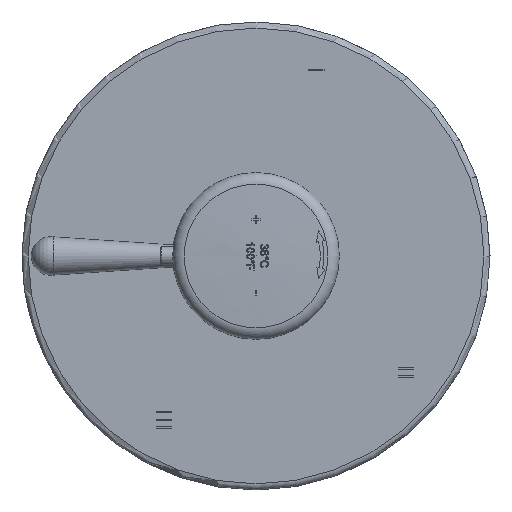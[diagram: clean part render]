
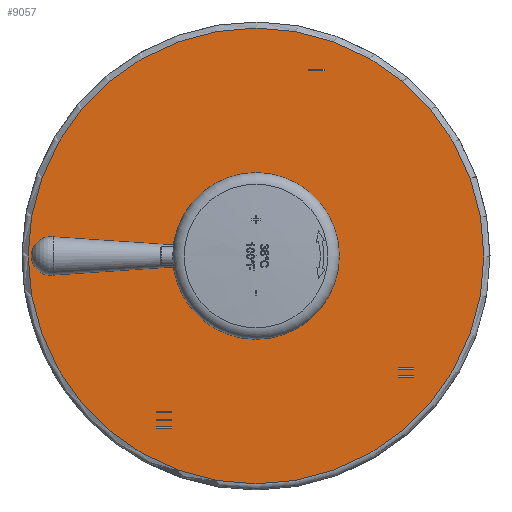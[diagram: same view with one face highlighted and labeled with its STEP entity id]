
A CAD part, front view. The second image highlights one B-rep face of the part: STEP entity #9057.
In plain terms, the highlighted planar face has unit normal (0, -1, 0) as drawn and (0, 0, 1) by its records, which use the part's own axes.
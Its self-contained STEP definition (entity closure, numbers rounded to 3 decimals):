
#400=LINE('',#12822,#940);
#403=LINE('',#12827,#943);
#405=LINE('',#12831,#945);
#407=LINE('',#12834,#947);
#408=LINE('',#12838,#948);
#412=LINE('',#12846,#952);
#415=LINE('',#12852,#955);
#418=LINE('',#12857,#958);
#424=LINE('',#12872,#964);
#427=LINE('',#12877,#967);
#429=LINE('',#12881,#969);
#431=LINE('',#12884,#971);
#432=LINE('',#12888,#972);
#436=LINE('',#12896,#976);
#439=LINE('',#12902,#979);
#442=LINE('',#12907,#982);
#448=LINE('',#12922,#988);
#451=LINE('',#12927,#991);
#453=LINE('',#12931,#993);
#455=LINE('',#12934,#995);
#456=LINE('',#12938,#996);
#460=LINE('',#12946,#1000);
#463=LINE('',#12952,#1003);
#466=LINE('',#12957,#1006);
#940=VECTOR('',#10505,0.5);
#943=VECTOR('',#10510,5.);
#945=VECTOR('',#10514,5.);
#947=VECTOR('',#10518,0.5);
#948=VECTOR('',#10521,0.5);
#952=VECTOR('',#10527,5.);
#955=VECTOR('',#10532,5.);
#958=VECTOR('',#10537,0.5);
#964=VECTOR('',#10549,0.5);
#967=VECTOR('',#10554,5.);
#969=VECTOR('',#10558,5.);
#971=VECTOR('',#10562,0.5);
#972=VECTOR('',#10565,5.);
#976=VECTOR('',#10571,0.5);
#979=VECTOR('',#10576,0.5);
#982=VECTOR('',#10581,5.);
#988=VECTOR('',#10593,0.5);
#991=VECTOR('',#10598,5.);
#993=VECTOR('',#10602,5.);
#995=VECTOR('',#10606,0.5);
#996=VECTOR('',#10609,0.5);
#1000=VECTOR('',#10615,5.);
#1003=VECTOR('',#10620,5.);
#1006=VECTOR('',#10625,0.5);
#1563=PLANE('',#9673);
#1810=CIRCLE('',#9672,26.85);
#1811=CIRCLE('',#9674,74.5);
#2171=FACE_BOUND('',#2964,.T.);
#2172=FACE_BOUND('',#2965,.T.);
#2173=FACE_BOUND('',#2966,.T.);
#2174=FACE_BOUND('',#2967,.T.);
#2175=FACE_BOUND('',#2968,.T.);
#2176=FACE_BOUND('',#2969,.T.);
#2177=FACE_BOUND('',#2970,.T.);
#2361=FACE_OUTER_BOUND('',#2963,.T.);
#2963=EDGE_LOOP('',(#6394));
#2964=EDGE_LOOP('',(#6395,#6396,#6397,#6398));
#2965=EDGE_LOOP('',(#6399,#6400,#6401,#6402));
#2966=EDGE_LOOP('',(#6403,#6404,#6405,#6406));
#2967=EDGE_LOOP('',(#6407,#6408,#6409,#6410));
#2968=EDGE_LOOP('',(#6411,#6412,#6413,#6414));
#2969=EDGE_LOOP('',(#6415,#6416,#6417,#6418));
#2970=EDGE_LOOP('',(#6419));
#3962=VERTEX_POINT('',#12820);
#3963=VERTEX_POINT('',#12821);
#3964=VERTEX_POINT('',#12826);
#3965=VERTEX_POINT('',#12830);
#3966=VERTEX_POINT('',#12836);
#3967=VERTEX_POINT('',#12837);
#3970=VERTEX_POINT('',#12845);
#3972=VERTEX_POINT('',#12851);
#3978=VERTEX_POINT('',#12870);
#3979=VERTEX_POINT('',#12871);
#3980=VERTEX_POINT('',#12876);
#3981=VERTEX_POINT('',#12880);
#3982=VERTEX_POINT('',#12886);
#3983=VERTEX_POINT('',#12887);
#3986=VERTEX_POINT('',#12895);
#3988=VERTEX_POINT('',#12901);
#3994=VERTEX_POINT('',#12920);
#3995=VERTEX_POINT('',#12921);
#3996=VERTEX_POINT('',#12926);
#3997=VERTEX_POINT('',#12930);
#3998=VERTEX_POINT('',#12936);
#3999=VERTEX_POINT('',#12937);
#4002=VERTEX_POINT('',#12945);
#4004=VERTEX_POINT('',#12951);
#4024=VERTEX_POINT('',#13048);
#4025=VERTEX_POINT('',#13051);
#4883=EDGE_CURVE('',#3962,#3963,#400,.T.);
#4886=EDGE_CURVE('',#3963,#3964,#403,.T.);
#4888=EDGE_CURVE('',#3965,#3962,#405,.T.);
#4890=EDGE_CURVE('',#3964,#3965,#407,.T.);
#4891=EDGE_CURVE('',#3966,#3967,#408,.T.);
#4895=EDGE_CURVE('',#3967,#3970,#412,.T.);
#4898=EDGE_CURVE('',#3972,#3966,#415,.T.);
#4901=EDGE_CURVE('',#3970,#3972,#418,.T.);
#4907=EDGE_CURVE('',#3978,#3979,#424,.T.);
#4910=EDGE_CURVE('',#3979,#3980,#427,.T.);
#4912=EDGE_CURVE('',#3981,#3978,#429,.T.);
#4914=EDGE_CURVE('',#3980,#3981,#431,.T.);
#4915=EDGE_CURVE('',#3982,#3983,#432,.T.);
#4919=EDGE_CURVE('',#3983,#3986,#436,.T.);
#4922=EDGE_CURVE('',#3988,#3982,#439,.T.);
#4925=EDGE_CURVE('',#3986,#3988,#442,.T.);
#4931=EDGE_CURVE('',#3994,#3995,#448,.T.);
#4934=EDGE_CURVE('',#3995,#3996,#451,.T.);
#4936=EDGE_CURVE('',#3997,#3994,#453,.T.);
#4938=EDGE_CURVE('',#3996,#3997,#455,.T.);
#4939=EDGE_CURVE('',#3998,#3999,#456,.T.);
#4943=EDGE_CURVE('',#3999,#4002,#460,.T.);
#4946=EDGE_CURVE('',#4004,#3998,#463,.T.);
#4949=EDGE_CURVE('',#4002,#4004,#466,.T.);
#4973=EDGE_CURVE('',#4024,#4024,#1810,.T.);
#4974=EDGE_CURVE('',#4025,#4025,#1811,.T.);
#6394=ORIENTED_EDGE('',*,*,#4974,.F.);
#6395=ORIENTED_EDGE('',*,*,#4883,.T.);
#6396=ORIENTED_EDGE('',*,*,#4886,.T.);
#6397=ORIENTED_EDGE('',*,*,#4890,.T.);
#6398=ORIENTED_EDGE('',*,*,#4888,.T.);
#6399=ORIENTED_EDGE('',*,*,#4891,.T.);
#6400=ORIENTED_EDGE('',*,*,#4895,.T.);
#6401=ORIENTED_EDGE('',*,*,#4901,.T.);
#6402=ORIENTED_EDGE('',*,*,#4898,.T.);
#6403=ORIENTED_EDGE('',*,*,#4907,.T.);
#6404=ORIENTED_EDGE('',*,*,#4910,.T.);
#6405=ORIENTED_EDGE('',*,*,#4914,.T.);
#6406=ORIENTED_EDGE('',*,*,#4912,.T.);
#6407=ORIENTED_EDGE('',*,*,#4915,.T.);
#6408=ORIENTED_EDGE('',*,*,#4919,.T.);
#6409=ORIENTED_EDGE('',*,*,#4925,.T.);
#6410=ORIENTED_EDGE('',*,*,#4922,.T.);
#6411=ORIENTED_EDGE('',*,*,#4931,.T.);
#6412=ORIENTED_EDGE('',*,*,#4934,.T.);
#6413=ORIENTED_EDGE('',*,*,#4938,.T.);
#6414=ORIENTED_EDGE('',*,*,#4936,.T.);
#6415=ORIENTED_EDGE('',*,*,#4939,.T.);
#6416=ORIENTED_EDGE('',*,*,#4943,.T.);
#6417=ORIENTED_EDGE('',*,*,#4949,.T.);
#6418=ORIENTED_EDGE('',*,*,#4946,.T.);
#6419=ORIENTED_EDGE('',*,*,#4973,.F.);
#9057=ADVANCED_FACE('',(#2361,#2171,#2172,#2173,#2174,#2175,#2176,#2177),
#1563,.F.);
#9672=AXIS2_PLACEMENT_3D('',#13049,#10685,#10686);
#9673=AXIS2_PLACEMENT_3D('',#13050,#10687,#10688);
#9674=AXIS2_PLACEMENT_3D('',#13052,#10689,#10690);
#10505=DIRECTION('',(-1.,0.,0.));
#10510=DIRECTION('',(0.,1.,0.));
#10514=DIRECTION('',(0.,-1.,0.));
#10518=DIRECTION('',(1.,0.,0.));
#10521=DIRECTION('',(-1.,0.,0.));
#10527=DIRECTION('',(0.,1.,0.));
#10532=DIRECTION('',(0.,-1.,0.));
#10537=DIRECTION('',(1.,0.,0.));
#10549=DIRECTION('',(-1.,0.,0.));
#10554=DIRECTION('',(0.,1.,0.));
#10558=DIRECTION('',(0.,-1.,0.));
#10562=DIRECTION('',(1.,0.,0.));
#10565=DIRECTION('',(0.,-1.,0.));
#10571=DIRECTION('',(-1.,0.,0.));
#10576=DIRECTION('',(1.,0.,0.));
#10581=DIRECTION('',(0.,1.,0.));
#10593=DIRECTION('',(-1.,0.,0.));
#10598=DIRECTION('',(0.,1.,0.));
#10602=DIRECTION('',(0.,-1.,0.));
#10606=DIRECTION('',(1.,0.,0.));
#10609=DIRECTION('',(-1.,0.,0.));
#10615=DIRECTION('',(0.,1.,0.));
#10620=DIRECTION('',(0.,-1.,0.));
#10625=DIRECTION('',(1.,0.,0.));
#10685=DIRECTION('center_axis',(0.,0.,1.));
#10686=DIRECTION('ref_axis',(-1.,0.,0.));
#10687=DIRECTION('center_axis',(0.,0.,-1.));
#10688=DIRECTION('ref_axis',(-1.,0.,0.));
#10689=DIRECTION('center_axis',(0.,0.,-1.));
#10690=DIRECTION('ref_axis',(-1.,0.,0.));
#12820=CARTESIAN_POINT('',(51.292,-32.5,12.));
#12821=CARTESIAN_POINT('',(50.792,-32.5,12.));
#12822=CARTESIAN_POINT('',(25.396,-32.5,12.));
#12826=CARTESIAN_POINT('',(50.792,-27.5,12.));
#12827=CARTESIAN_POINT('',(50.792,-13.75,12.));
#12830=CARTESIAN_POINT('',(51.292,-27.5,12.));
#12831=CARTESIAN_POINT('',(51.292,-16.25,12.));
#12834=CARTESIAN_POINT('',(25.646,-27.5,12.));
#12836=CARTESIAN_POINT('',(-60.58,17.231,12.));
#12837=CARTESIAN_POINT('',(-61.08,17.231,12.));
#12838=CARTESIAN_POINT('',(-30.54,17.231,12.));
#12845=CARTESIAN_POINT('',(-61.08,22.231,12.));
#12846=CARTESIAN_POINT('',(-61.08,11.116,12.));
#12851=CARTESIAN_POINT('',(-60.58,22.231,12.));
#12852=CARTESIAN_POINT('',(-60.58,8.616,12.));
#12857=CARTESIAN_POINT('',(-30.29,22.231,12.));
#12870=CARTESIAN_POINT('',(53.792,-32.5,12.));
#12871=CARTESIAN_POINT('',(53.292,-32.5,12.));
#12872=CARTESIAN_POINT('',(26.646,-32.5,12.));
#12876=CARTESIAN_POINT('',(53.292,-27.5,12.));
#12877=CARTESIAN_POINT('',(53.292,-13.75,12.));
#12880=CARTESIAN_POINT('',(53.792,-27.5,12.));
#12881=CARTESIAN_POINT('',(53.792,-16.25,12.));
#12884=CARTESIAN_POINT('',(26.896,-27.5,12.));
#12886=CARTESIAN_POINT('',(39.569,51.568,12.));
#12887=CARTESIAN_POINT('',(39.569,46.568,12.));
#12888=CARTESIAN_POINT('',(39.569,23.284,12.));
#12895=CARTESIAN_POINT('',(39.069,46.568,12.));
#12896=CARTESIAN_POINT('',(19.535,46.568,12.));
#12901=CARTESIAN_POINT('',(39.069,51.568,12.));
#12902=CARTESIAN_POINT('',(19.785,51.568,12.));
#12907=CARTESIAN_POINT('',(39.069,25.784,12.));
#12920=CARTESIAN_POINT('',(56.292,-32.5,12.));
#12921=CARTESIAN_POINT('',(55.792,-32.5,12.));
#12922=CARTESIAN_POINT('',(27.896,-32.5,12.));
#12926=CARTESIAN_POINT('',(55.792,-27.5,12.));
#12927=CARTESIAN_POINT('',(55.792,-13.75,12.));
#12930=CARTESIAN_POINT('',(56.292,-27.5,12.));
#12931=CARTESIAN_POINT('',(56.292,-16.25,12.));
#12934=CARTESIAN_POINT('',(28.146,-27.5,12.));
#12936=CARTESIAN_POINT('',(37.069,46.568,12.));
#12937=CARTESIAN_POINT('',(36.569,46.568,12.));
#12938=CARTESIAN_POINT('',(18.285,46.568,12.));
#12945=CARTESIAN_POINT('',(36.569,51.568,12.));
#12946=CARTESIAN_POINT('',(36.569,25.784,12.));
#12951=CARTESIAN_POINT('',(37.069,51.568,12.));
#12952=CARTESIAN_POINT('',(37.069,23.284,12.));
#12957=CARTESIAN_POINT('',(18.535,51.568,12.));
#13048=CARTESIAN_POINT('',(26.85,0.,12.));
#13049=CARTESIAN_POINT('Origin',(0.,0.,12.));
#13050=CARTESIAN_POINT('Origin',(0.,0.,12.));
#13051=CARTESIAN_POINT('',(74.5,0.,12.));
#13052=CARTESIAN_POINT('Origin',(0.,0.,12.));
